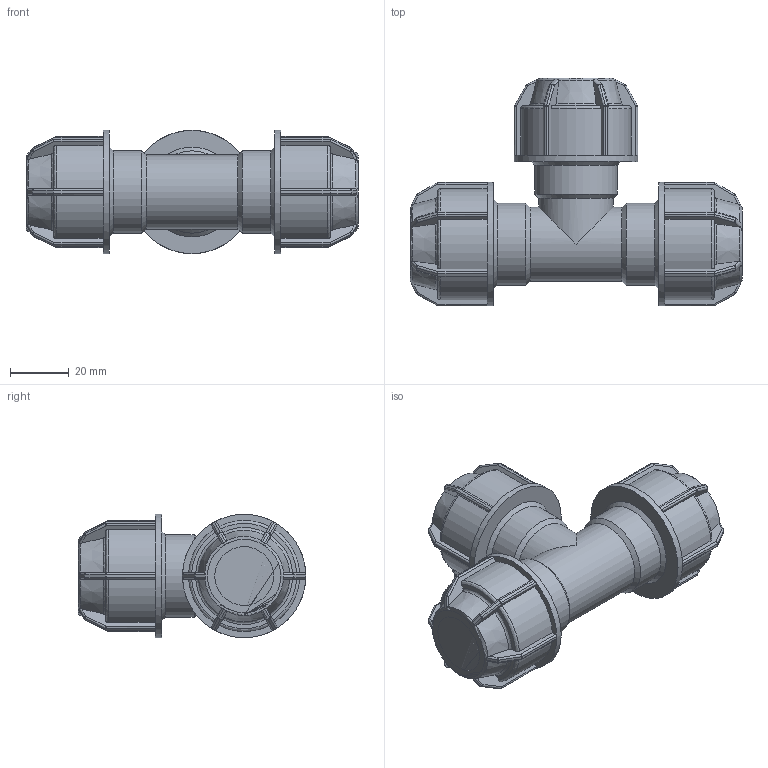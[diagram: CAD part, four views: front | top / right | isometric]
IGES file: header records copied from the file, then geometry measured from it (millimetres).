
Global section: file name: 140400020.ipt; native system: Autodesk Inventor 2015; preprocessor: unknown; author: KIM; date: 20180409.131027; units: millimetre
Bounding box: 113 x 77.5 x 42 mm (x, y, z)
Volume: 78738.4 mm3; surface area: 32039 mm2
Topology: 1 solids, 1 shells, 604 faces, 1451 edges, 845 vertices
Faces by surface type: plane 288, cylinder 170, sphere 72, revolution 50, cone 24
Full cylindrical faces by diameter (mm): 25.2 x2, 28 x3, 42 x3
